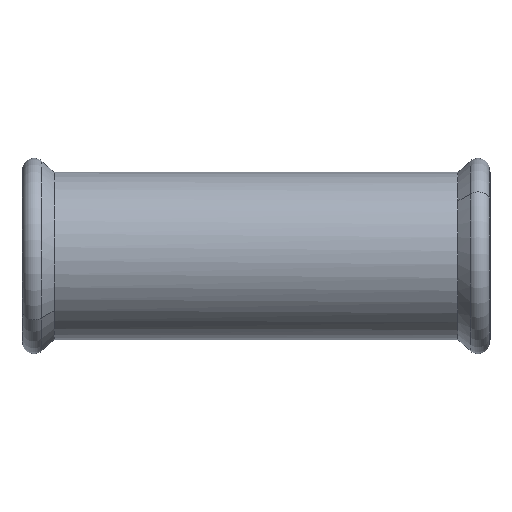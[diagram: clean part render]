
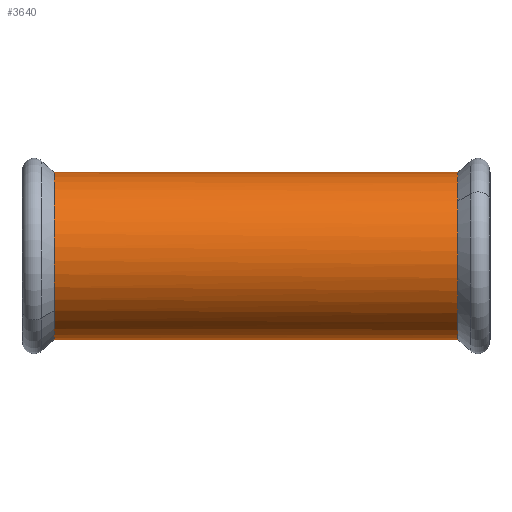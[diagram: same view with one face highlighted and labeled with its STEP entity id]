
A CAD part, top view. The second image highlights one B-rep face of the part: STEP entity #3640.
In plain terms, the highlighted cylindrical face has radius 35.45 mm (diameter 70.9 mm), a partial arc.
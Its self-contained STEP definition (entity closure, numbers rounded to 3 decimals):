
#510=CARTESIAN_POINT('',(11.139,0.,0.));
#520=DIRECTION('',(1.,0.,0.));
#530=DIRECTION('',(0.,1.,0.));
#540=AXIS2_PLACEMENT_3D('',#510,#520,#530);
#550=CYLINDRICAL_SURFACE('',#540,35.45);
#560=CARTESIAN_POINT('',(-126.916,0.,
0.));
#570=DIRECTION('',(-1.,0.,0.));
#580=DIRECTION('',(0.,0.654,
-0.757));
#590=AXIS2_PLACEMENT_3D('',#560,#570,#580);
#600=CIRCLE('',#590,35.45);
#630=CARTESIAN_POINT('',(-126.916,-35.45,0.))
;
#640=VERTEX_POINT('',#630);
#670=CARTESIAN_POINT('',(11.139,-35.45,0.));
#680=DIRECTION('',(1.,0.,0.));
#690=VECTOR('',#680,1.);
#700=LINE('',#670,#690);
#710=CARTESIAN_POINT('',(44.295,-35.45,0.));
#720=VERTEX_POINT('',#710);
#730=EDGE_CURVE('',#640,#720,#700,.T.);
#750=CARTESIAN_POINT('',(44.295,0.,
0.));
#760=DIRECTION('',(1.,0.,0.));
#770=DIRECTION('',(0.,-0.654,
-0.757));
#780=AXIS2_PLACEMENT_3D('',#750,#760,#770);
#790=CIRCLE('',#780,35.45);
#840=CARTESIAN_POINT('',(44.295,35.45,0.));
#850=VERTEX_POINT('',#840);
#880=CARTESIAN_POINT('',(11.139,35.45,0.));
#890=DIRECTION('',(1.,0.,0.));
#900=VECTOR('',#890,1.);
#910=LINE('',#880,#900);
#920=CARTESIAN_POINT('',(-126.916,35.45,0.));
#930=VERTEX_POINT('',#920);
#940=EDGE_CURVE('',#930,#850,#910,.T.);
#1460=CARTESIAN_POINT('',(-126.916,-23.177,
26.824));
#1470=VERTEX_POINT('',#1460);
#1480=EDGE_CURVE('',#1470,#930,#600,.T.);
#3510=CARTESIAN_POINT('',(44.295,23.177,
26.824));
#3520=VERTEX_POINT('',#3510);
#3530=EDGE_CURVE('',#850,#3520,#790,.T.);
#3540=ORIENTED_EDGE('',*,*,#3530,.F.);
#3550=EDGE_CURVE('',#3520,#720,#790,.T.);
#3560=ORIENTED_EDGE('',*,*,#3550,.F.);
#3570=ORIENTED_EDGE('',*,*,#730,.T.);
#3580=EDGE_CURVE('',#640,#1470,#600,.T.);
#3590=ORIENTED_EDGE('',*,*,#3580,.F.);
#3600=ORIENTED_EDGE('',*,*,#1480,.F.);
#3610=ORIENTED_EDGE('',*,*,#940,.F.);
#3620=EDGE_LOOP('',(#3610,#3600,#3590,#3570,#3560,#3540));
#3630=FACE_OUTER_BOUND('',#3620,.T.);
#3640=ADVANCED_FACE('',(#3630),#550,.T.);
